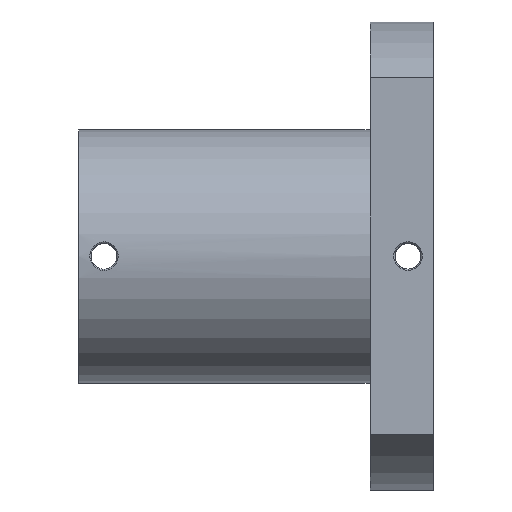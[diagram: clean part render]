
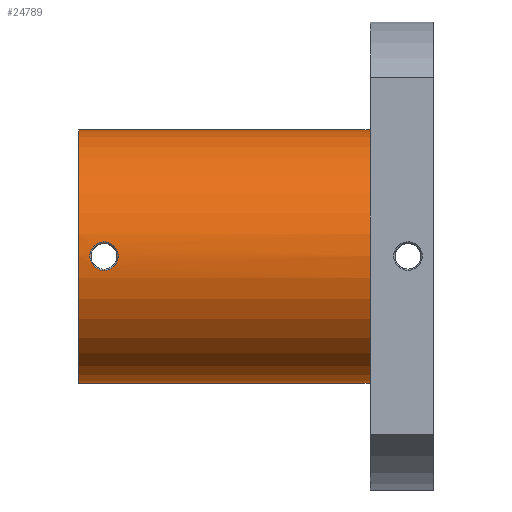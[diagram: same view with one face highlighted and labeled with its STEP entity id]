
A CAD part, top view. The second image highlights one B-rep face of the part: STEP entity #24789.
In plain terms, the highlighted cylindrical face has radius 10 mm (diameter 20 mm), a partial arc.
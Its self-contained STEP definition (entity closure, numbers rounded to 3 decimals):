
#37 = CIRCLE ( 'NONE', #36964, 10. ) ;
#863 = DIRECTION ( 'NONE',  ( 0., 1., 0. ) ) ;
#1658 = CARTESIAN_POINT ( 'NONE',  ( -25.005, -0.587, 9.985 ) ) ;
#1786 = CARTESIAN_POINT ( 'NONE',  ( -26.293, 1.094, 9.94 ) ) ;
#1902 = CYLINDRICAL_SURFACE ( 'NONE', #9600, 10. ) ;
#3361 = CARTESIAN_POINT ( 'NONE',  ( -25.642, 1.067, 9.943 ) ) ;
#3504 = CARTESIAN_POINT ( 'NONE',  ( -25.929, -1.124, 9.937 ) ) ;
#3773 = CARTESIAN_POINT ( 'NONE',  ( -25.641, -1.067, 9.943 ) ) ;
#4014 = VERTEX_POINT ( 'NONE', #29061 ) ;
#5885 = DIRECTION ( 'NONE',  ( 1., 0., 0. ) ) ;
#6317 = CARTESIAN_POINT ( 'NONE',  ( -27.115, 0., 10. ) ) ;
#6834 = DIRECTION ( 'NONE',  ( 0., 1., 0. ) ) ;
#6840 = CARTESIAN_POINT ( 'NONE',  ( -25.854, -1.117, 9.937 ) ) ;
#7216 = CARTESIAN_POINT ( 'NONE',  ( -24.885, 0.296, 10. ) ) ;
#7253 = CARTESIAN_POINT ( 'NONE',  ( 0., 0., 0. ) ) ;
#7264 = CARTESIAN_POINT ( 'NONE',  ( -28., 0., 0. ) ) ;
#7787 = DIRECTION ( 'NONE',  ( 1., 0., 0. ) ) ;
#7923 = CARTESIAN_POINT ( 'NONE',  ( -25.928, 1.124, 9.937 ) ) ;
#8181 = CARTESIAN_POINT ( 'NONE',  ( -27.115, 0.148, 10. ) ) ;
#8655 = CARTESIAN_POINT ( 'NONE',  ( -28., -10., 0. ) ) ;
#8703 = CARTESIAN_POINT ( 'NONE',  ( -26.145, 1.124, 9.937 ) ) ;
#9357 = CARTESIAN_POINT ( 'NONE',  ( -26.144, -1.124, 9.937 ) ) ;
#9449 = VECTOR ( 'NONE', #5885, 1000. ) ;
#9600 = AXIS2_PLACEMENT_3D ( 'NONE', #7253, #7787, #32300 ) ;
#9630 = CARTESIAN_POINT ( 'NONE',  ( -27.115, -0.296, 10. ) ) ;
#9637 = ORIENTED_EDGE ( 'NONE', *, *, #11348, .T. ) ;
#9812 = ORIENTED_EDGE ( 'NONE', *, *, #18184, .T. ) ;
#9902 = CARTESIAN_POINT ( 'NONE',  ( -26.293, -1.094, 9.94 ) ) ;
#10283 = CARTESIAN_POINT ( 'NONE',  ( -25.711, 1.088, 9.941 ) ) ;
#10332 = DIRECTION ( 'NONE',  ( 1., 0., 0. ) ) ;
#10396 = B_SPLINE_CURVE_WITH_KNOTS ( 'NONE', 3,
 ( #17476, #35104, #1658, #32315, #23093, #3773, #11896, #6840, #3504, #9357, #9902, #21061, #18806, #12408, #9630, #6317 ),
 .UNSPECIFIED., .F., .F.,
 ( 4, 2, 2, 2, 2, 2, 2, 4 ),
 ( 0.5, 0.625, 0.688, 0.719, 0.75, 0.813, 0.875, 1. ),
 .UNSPECIFIED. ) ;
#11293 = LINE ( 'NONE', #17708, #24410 ) ;
#11343 = CARTESIAN_POINT ( 'NONE',  ( -5., 10., 0. ) ) ;
#11348 = EDGE_CURVE ( 'NONE', #37918, #4014, #35757, .T. ) ;
#11759 = CARTESIAN_POINT ( 'NONE',  ( -25.854, 1.117, 9.937 ) ) ;
#11896 = CARTESIAN_POINT ( 'NONE',  ( -25.71, -1.088, 9.941 ) ) ;
#12408 = CARTESIAN_POINT ( 'NONE',  ( -26.995, -0.587, 9.985 ) ) ;
#12928 = CARTESIAN_POINT ( 'NONE',  ( -5., 0., 0. ) ) ;
#13058 = CARTESIAN_POINT ( 'NONE',  ( -24.885, 0., 10. ) ) ;
#13841 = VERTEX_POINT ( 'NONE', #11343 ) ;
#14278 = CARTESIAN_POINT ( 'NONE',  ( -26.974, 0.566, 9.985 ) ) ;
#14299 = EDGE_CURVE ( 'NONE', #16388, #13841, #11293, .T. ) ;
#14823 = CARTESIAN_POINT ( 'NONE',  ( -28., 10., 0. ) ) ;
#16388 = VERTEX_POINT ( 'NONE', #14823 ) ;
#16444 = CARTESIAN_POINT ( 'NONE',  ( -27.115, 0., 10. ) ) ;
#16651 = DIRECTION ( 'NONE',  ( 1., 0., 0. ) ) ;
#17476 = CARTESIAN_POINT ( 'NONE',  ( -24.885, 0., 10. ) ) ;
#17708 = CARTESIAN_POINT ( 'NONE',  ( 0., 10., 0. ) ) ;
#18184 = EDGE_CURVE ( 'NONE', #29266, #31755, #10396, .T. ) ;
#18806 = CARTESIAN_POINT ( 'NONE',  ( -26.685, -0.899, 9.96 ) ) ;
#20111 = DIRECTION ( 'NONE',  ( 1., 0., 0. ) ) ;
#20118 = EDGE_CURVE ( 'NONE', #16388, #37918, #37, .T. ) ;
#20414 = CARTESIAN_POINT ( 'NONE',  ( -26.891, 0.691, 9.977 ) ) ;
#20671 = CARTESIAN_POINT ( 'NONE',  ( -26.686, 0.898, 9.96 ) ) ;
#21061 = CARTESIAN_POINT ( 'NONE',  ( -26.561, -0.982, 9.952 ) ) ;
#21435 = CARTESIAN_POINT ( 'NONE',  ( -25.005, 0.587, 9.985 ) ) ;
#22215 = ORIENTED_EDGE ( 'NONE', *, *, #14299, .F. ) ;
#22906 = EDGE_LOOP ( 'NONE', ( #35666, #9812 ) ) ;
#23093 = CARTESIAN_POINT ( 'NONE',  ( -25.439, -0.982, 9.952 ) ) ;
#23095 = B_SPLINE_CURVE_WITH_KNOTS ( 'NONE', 3,
 ( #35227, #8181, #38306, #14278, #20414, #20671, #23730, #1786, #8703, #7923, #11759, #10283, #3361, #30379, #30920, #21435, #7216, #13058 ),
 .UNSPECIFIED., .F., .F.,
 ( 4, 2, 2, 2, 2, 2, 2, 2, 4 ),
 ( 0., 0.063, 0.125, 0.188, 0.25, 0.281, 0.313, 0.375, 0.5 ),
 .UNSPECIFIED. ) ;
#23730 = CARTESIAN_POINT ( 'NONE',  ( -26.561, 0.982, 9.952 ) ) ;
#24410 = VECTOR ( 'NONE', #16651, 1000. ) ;
#24789 = ADVANCED_FACE ( 'NONE', ( #25754, #27507 ), #1902, .T. ) ;
#25754 = FACE_BOUND ( 'NONE', #22906, .T. ) ;
#27251 = EDGE_CURVE ( 'NONE', #31755, #29266, #23095, .T. ) ;
#27507 = FACE_OUTER_BOUND ( 'NONE', #33767, .T. ) ;
#29061 = CARTESIAN_POINT ( 'NONE',  ( -5., -10., 0. ) ) ;
#29266 = VERTEX_POINT ( 'NONE', #36617 ) ;
#30001 = CIRCLE ( 'NONE', #30096, 10. ) ;
#30096 = AXIS2_PLACEMENT_3D ( 'NONE', #12928, #20111, #6834 ) ;
#30379 = CARTESIAN_POINT ( 'NONE',  ( -25.438, 0.982, 9.952 ) ) ;
#30920 = CARTESIAN_POINT ( 'NONE',  ( -25.315, 0.899, 9.96 ) ) ;
#31755 = VERTEX_POINT ( 'NONE', #16444 ) ;
#32300 = DIRECTION ( 'NONE',  ( 0., 1., 0. ) ) ;
#32315 = CARTESIAN_POINT ( 'NONE',  ( -25.315, -0.899, 9.96 ) ) ;
#33767 = EDGE_LOOP ( 'NONE', ( #34554, #9637, #36508, #22215 ) ) ;
#33859 = EDGE_CURVE ( 'NONE', #13841, #4014, #30001, .T. ) ;
#34554 = ORIENTED_EDGE ( 'NONE', *, *, #20118, .T. ) ;
#35104 = CARTESIAN_POINT ( 'NONE',  ( -24.885, -0.296, 10. ) ) ;
#35227 = CARTESIAN_POINT ( 'NONE',  ( -27.115, 0., 10. ) ) ;
#35666 = ORIENTED_EDGE ( 'NONE', *, *, #27251, .T. ) ;
#35757 = LINE ( 'NONE', #39320, #9449 ) ;
#36508 = ORIENTED_EDGE ( 'NONE', *, *, #33859, .F. ) ;
#36617 = CARTESIAN_POINT ( 'NONE',  ( -24.885, 0., 10. ) ) ;
#36964 = AXIS2_PLACEMENT_3D ( 'NONE', #7264, #10332, #863 ) ;
#37918 = VERTEX_POINT ( 'NONE', #8655 ) ;
#38306 = CARTESIAN_POINT ( 'NONE',  ( -27.086, 0.295, 9.997 ) ) ;
#39320 = CARTESIAN_POINT ( 'NONE',  ( 0., -10., 0. ) ) ;
